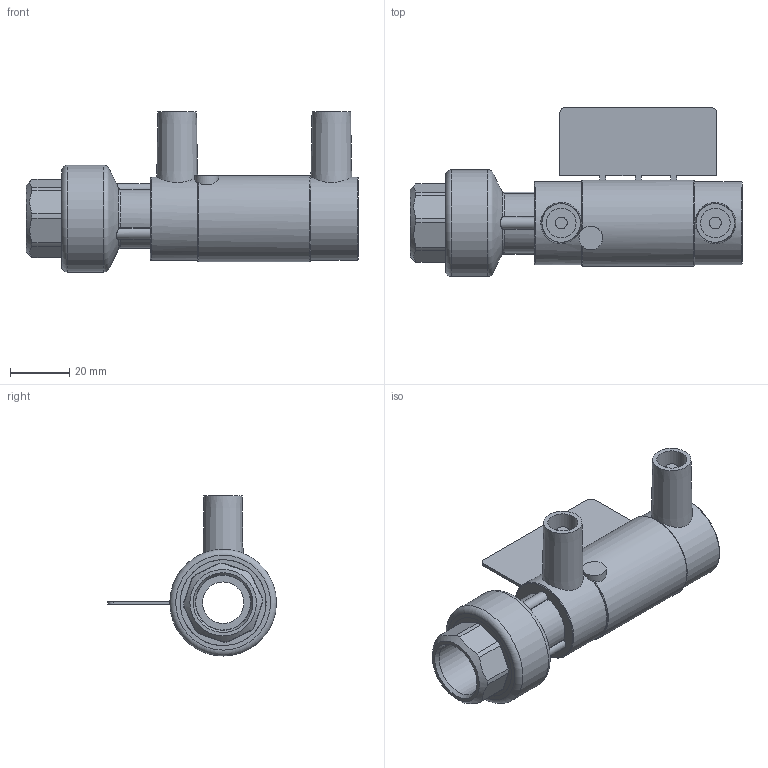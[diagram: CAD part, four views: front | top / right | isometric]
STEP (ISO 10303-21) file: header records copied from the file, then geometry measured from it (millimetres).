
FILE_DESCRIPTION(/* description */ ('Unknown'),/* implementation_level */ '2;1');
FILE_NAME(/* name */ 'MTFP020C.P',/* time_stamp */ '2021-11-10T15:30:47+01:00',/* author */ ('Unknown'),/* organization */ ('Unknown'),/* preprocessor_version */ 'ST-DEVELOPER v16.7',/* originating_system */ 'Solid Edge',/* authorisation */ 'Unknown');
FILE_SCHEMA (('AUTOMOTIVE_DESIGN {1 0 10303 214 3 1 1}'));
Length unit declared in the file: millimetre
Products named in the file (5): MTFP020C.P; MP020C.P; RTOFP020C; Parte PE 020; IOF020
Assembly tree (4 placements, depth 3):
  MTFP020C.P
    MP020C.P
    RTOFP020C
      Parte PE 020
      IOF020
Bounding box: 112 x 57 x 54 mm (x, y, z)
Volume: 52444.7 mm3; surface area: 33383.6 mm2
Topology: 3 solids, 3 shells, 256 faces, 640 edges, 396 vertices
Faces by surface type: plane 132, cylinder 63, torus 40, bspline 15, cone 6
Full cylindrical faces by diameter (mm): 4 x2, 8 x1, 10 x2, 14 x1, 18.5 x3, 18.631 x1, 20 x2, 21.5 x2, 25 x4, 26.4 x2, 28 x2, 29 x9, 36 x1
Entity records: 8238 total; most frequent: CARTESIAN_POINT 1592, DIRECTION 1275, ORIENTED_EDGE 1116, EDGE_CURVE 558, AXIS2_PLACEMENT_3D 516, VERTEX_POINT 376, EDGE_LOOP 334, FACE_BOUND 334
